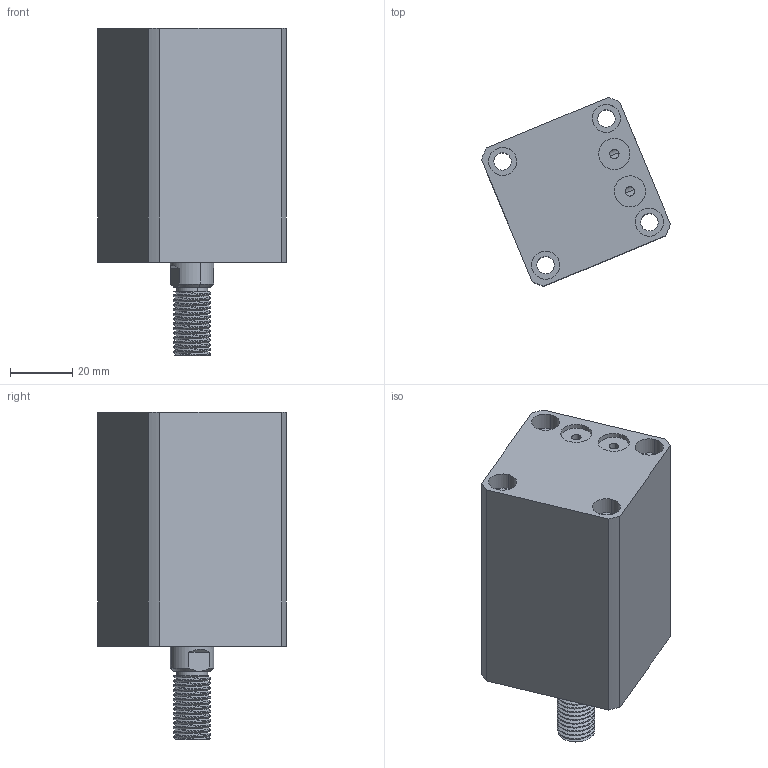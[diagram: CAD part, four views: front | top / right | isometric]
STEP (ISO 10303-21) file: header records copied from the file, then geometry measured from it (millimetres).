
FILE_DESCRIPTION (( 'STEP AP214' ), '1' );
FILE_NAME ('chtb-sdmb25x30w_asm.STEP', '2018-05-24T02:30:53', ( 'Windows' ), ( 'Microsoft' ), 'SwSTEP 2.0', 'SolidWorks 2015', '' );
FILE_SCHEMA (( 'AUTOMOTIVE_DESIGN' ));
Length unit declared in the file: millimetre
Products named in the file (4): CHTB-SDMB25X30NBT; CHTB-25QG; chtb-sdmb25x30w_asm; CHTB-SDMB25X30WHSG
Assembly tree (3 placements, depth 2):
  chtb-sdmb25x30w_asm
    CHTB-25QG
    CHTB-SDMB25X30NBT
    CHTB-SDMB25X30WHSG
Bounding box: 60.55 x 60.55 x 105 mm (x, y, z)
Volume: 153965.7 mm3; surface area: 42033 mm2
Topology: 3 solids, 3 shells, 176 faces, 476 edges, 323 vertices
Faces by surface type: cylinder 118, plane 37, bspline 12, cone 9
Entity records: 10721 total; most frequent: CARTESIAN_POINT 6406, ORIENTED_EDGE 944, DIRECTION 765, EDGE_CURVE 472, VERTEX_POINT 323, AXIS2_PLACEMENT_3D 310, EDGE_LOOP 215, ADVANCED_FACE 176
